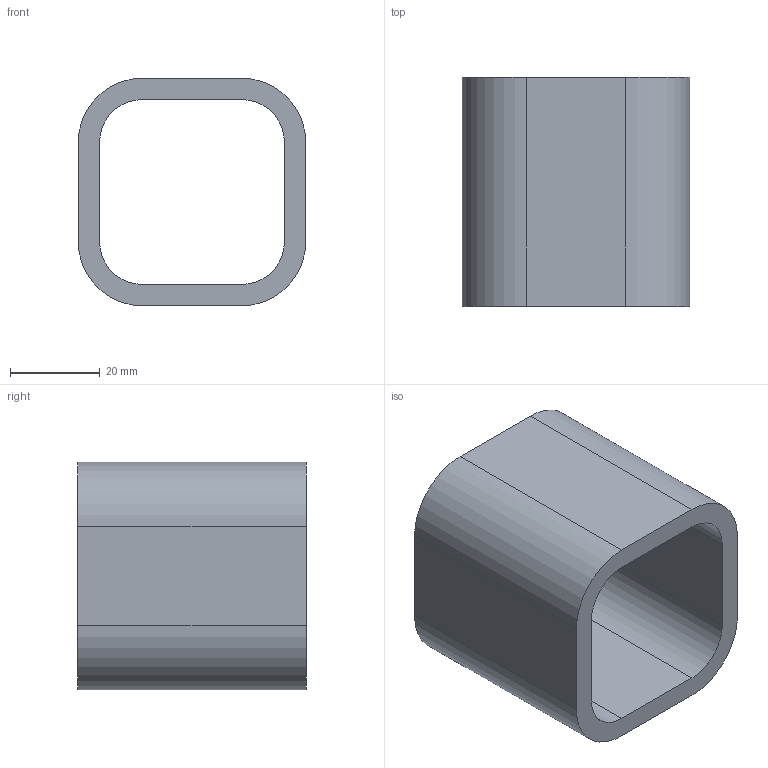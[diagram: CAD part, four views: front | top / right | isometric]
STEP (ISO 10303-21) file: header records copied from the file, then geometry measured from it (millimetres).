
FILE_DESCRIPTION(/* description */ (''),/* implementation_level */ '2;1');
FILE_NAME(/* name */ 'CR-REC-200-200-188.step',/* time_stamp */ '2025-05-20T11:12:18-07:00',/* author */ (''),/* organization */ (''),/* preprocessor_version */ 'ST-DEVELOPER v20.1',/* originating_system */ 'Autodesk Translation Framework v14.4.0.0',/* authorisation */ '');
FILE_SCHEMA (('AUTOMOTIVE_DESIGN { 1 0 10303 214 3 1 1 }'));
Length unit declared in the file: inch
Products named in the file (1): CR-REC-200-200-188
Bounding box: 50.8 x 51.05 x 50.8 mm (x, y, z)
Volume: 39885.5 mm3; surface area: 18267.7 mm2
Topology: 1 solids, 1 shells, 18 faces, 48 edges, 32 vertices
Faces by surface type: plane 10, cylinder 8
Entity records: 607 total; most frequent: DIRECTION 102, CARTESIAN_POINT 99, ORIENTED_EDGE 96, EDGE_CURVE 48, AXIS2_PLACEMENT_3D 35, LINE 32, VECTOR 32, VERTEX_POINT 32
